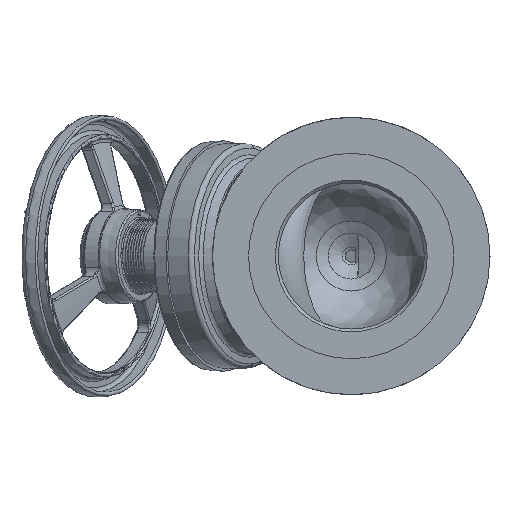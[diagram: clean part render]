
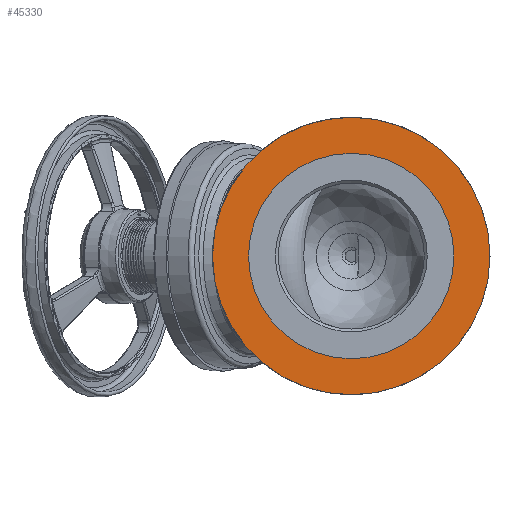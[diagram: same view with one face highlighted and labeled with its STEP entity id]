
A CAD part, left-side view. The second image highlights one B-rep face of the part: STEP entity #45330.
In plain terms, the highlighted planar face has unit normal (-1, 0, 0).
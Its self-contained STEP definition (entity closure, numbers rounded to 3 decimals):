
#39792=CARTESIAN_POINT('',(-477.,-142.5,0.0));
#39793=VERTEX_POINT('',#39792);
#39794=CARTESIAN_POINT('',(-477.,0.,0.0));
#39795=DIRECTION('',(-1.0,0.0,0.0));
#39796=DIRECTION('',(0.0,-1.0,0.0));
#39797=AXIS2_PLACEMENT_3D('',#39794,#39795,#39796);
#39798=CIRCLE('',#39797,142.5);
#39799=EDGE_CURVE('',#39793,#39793,#39798,.T.);
#45311=CARTESIAN_POINT('',(-477.,-124.,0.0));
#45312=DIRECTION('',(-1.0,0.0,0.0));
#45313=DIRECTION('',(0.0,0.0,1.0));
#45314=AXIS2_PLACEMENT_3D('',#45311,#45312,#45313);
#45315=PLANE('',#45314);
#45316=ORIENTED_EDGE('',*,*,#39799,.T.);
#45317=EDGE_LOOP('',(#45316));
#45318=FACE_OUTER_BOUND('',#45317,.T.);
#45319=CARTESIAN_POINT('',(-477.,-105.5,0.0));
#45320=VERTEX_POINT('',#45319);
#45321=CARTESIAN_POINT('',(-477.,0.,0.0));
#45322=DIRECTION('',(-1.0,0.0,0.0));
#45323=DIRECTION('',(0.0,-1.0,0.0));
#45324=AXIS2_PLACEMENT_3D('',#45321,#45322,#45323);
#45325=CIRCLE('',#45324,105.5);
#45326=EDGE_CURVE('',#45320,#45320,#45325,.T.);
#45327=ORIENTED_EDGE('',*,*,#45326,.F.);
#45328=EDGE_LOOP('',(#45327));
#45329=FACE_BOUND('',#45328,.T.);
#45330=ADVANCED_FACE('',(#45318,#45329),#45315,.T.);
